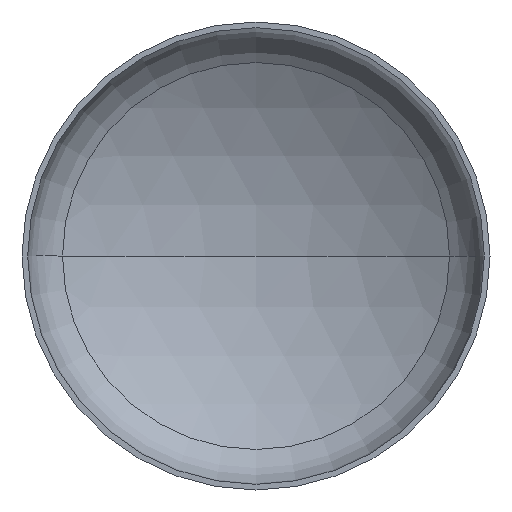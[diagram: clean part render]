
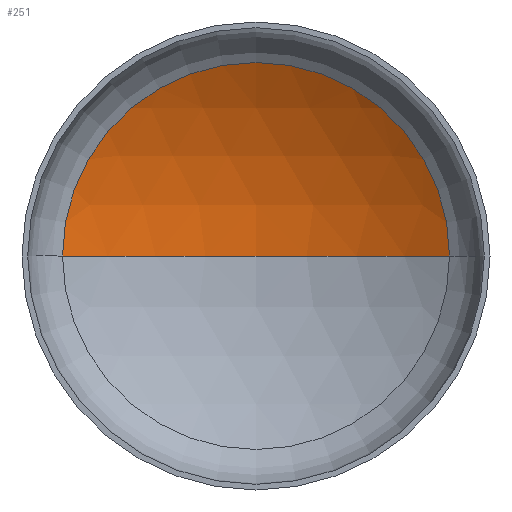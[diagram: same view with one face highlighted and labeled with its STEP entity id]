
A CAD part, front view. The second image highlights one B-rep face of the part: STEP entity #251.
In plain terms, the highlighted spherical face has radius 3200 mm.
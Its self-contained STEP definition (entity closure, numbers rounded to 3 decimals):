
#4 = ORIENTED_EDGE ( 'NONE', *, *, #239, .F. ) ;
#19 = EDGE_LOOP ( 'NONE', ( #4, #123, #28 ) ) ;
#26 = AXIS2_PLACEMENT_3D ( 'NONE', #43, #276, #396 ) ;
#28 = ORIENTED_EDGE ( 'NONE', *, *, #206, .T. ) ;
#32 = DIRECTION ( 'NONE',  ( -1., 0., 0. ) ) ;
#37 = AXIS2_PLACEMENT_3D ( 'NONE', #187, #391, #399 ) ;
#39 = AXIS2_PLACEMENT_3D ( 'NONE', #183, #179, #32 ) ;
#43 = CARTESIAN_POINT ( 'NONE',  ( 0., -2062.991, 0. ) ) ;
#46 = AXIS2_PLACEMENT_3D ( 'NONE', #264, #243, #240 ) ;
#67 = VERTEX_POINT ( 'NONE', #279 ) ;
#100 = VERTEX_POINT ( 'NONE', #325 ) ;
#102 = VERTEX_POINT ( 'NONE', #372 ) ;
#123 = ORIENTED_EDGE ( 'NONE', *, *, #222, .T. ) ;
#145 = CIRCLE ( 'NONE', #37, 3200. ) ;
#179 = DIRECTION ( 'NONE',  ( 0., 0., -1. ) ) ;
#183 = CARTESIAN_POINT ( 'NONE',  ( 0., -2062.991, 0. ) ) ;
#187 = CARTESIAN_POINT ( 'NONE',  ( 0., -2062.991, 0. ) ) ;
#206 = EDGE_CURVE ( 'NONE', #67, #102, #398, .T. ) ;
#220 = FACE_OUTER_BOUND ( 'NONE', #19, .T. ) ;
#222 = EDGE_CURVE ( 'NONE', #100, #67, #227, .T. ) ;
#227 = CIRCLE ( 'NONE', #39, 3200. ) ;
#239 = EDGE_CURVE ( 'NONE', #100, #102, #145, .T. ) ;
#240 = DIRECTION ( 'NONE',  ( 1., 0., 0. ) ) ;
#243 = DIRECTION ( 'NONE',  ( 0., -1., 0. ) ) ;
#251 = ADVANCED_FACE ( 'NONE', ( #220 ), #334, .F. ) ;
#264 = CARTESIAN_POINT ( 'NONE',  ( 0., 676.495, 0. ) ) ;
#276 = DIRECTION ( 'NONE',  ( 0., 0., -1. ) ) ;
#279 = CARTESIAN_POINT ( 'NONE',  ( 1653.849, 676.495, 0. ) ) ;
#325 = CARTESIAN_POINT ( 'NONE',  ( 0., 1137.009, 0. ) ) ;
#334 = SPHERICAL_SURFACE ( 'NONE', #26, 3200. ) ;
#372 = CARTESIAN_POINT ( 'NONE',  ( -1653.849, 676.495, 0. ) ) ;
#391 = DIRECTION ( 'NONE',  ( 0., 0., 1. ) ) ;
#396 = DIRECTION ( 'NONE',  ( -1., 0., 0. ) ) ;
#398 = CIRCLE ( 'NONE', #46, 1653.849 ) ;
#399 = DIRECTION ( 'NONE',  ( 1., 0., 0. ) ) ;
